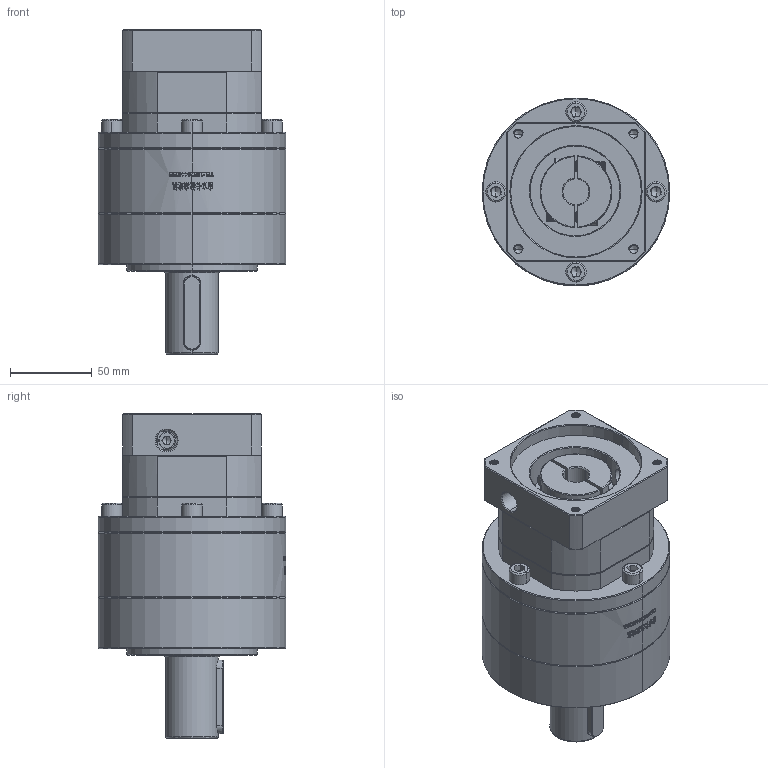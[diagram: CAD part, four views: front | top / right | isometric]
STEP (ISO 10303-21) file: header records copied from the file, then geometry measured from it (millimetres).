
FILE_DESCRIPTION (( 'STEP AP214' ), '1' );
FILE_NAME ('ZE120A-D32-L2-16-80-100-M6.step', '2023-03-13T06:51:17', ( '' ), ( '' ), 'SwSTEP 2.0', 'SolidWorks 2016', '' );
FILE_SCHEMA (( 'AUTOMOTIVE_DESIGN' ));
Length unit declared in the file: millimetre
Products named in the file (1): ZE120A-D32-L2-16-80-100-M6
Bounding box: 115 x 115 x 199 mm (x, y, z)
Volume: 1224291.3 mm3; surface area: 123066.7 mm2
Topology: 5 solids, 6 shells, 2020 faces, 5322 edges, 3393 vertices
Faces by surface type: plane 866, cylinder 500, bspline 333, cone 306, torus 15
Entity records: 116741 total; most frequent: CARTESIAN_POINT 49269, ORIENTED_EDGE 10568, DIRECTION 7901, EDGE_CURVE 5284, VERTEX_POINT 3393, VECTOR 2801, LINE 2801, AXIS2_PLACEMENT_3D 2550
